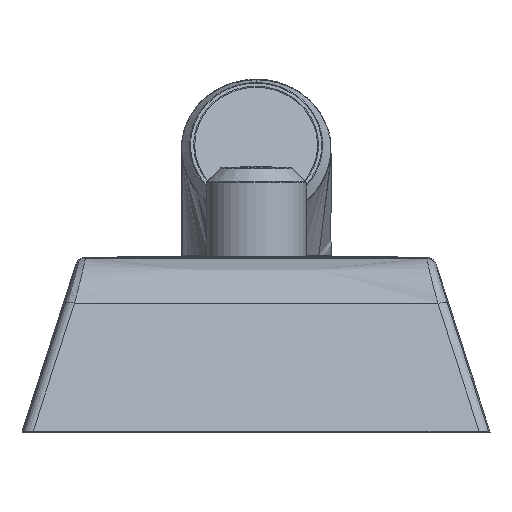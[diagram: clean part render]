
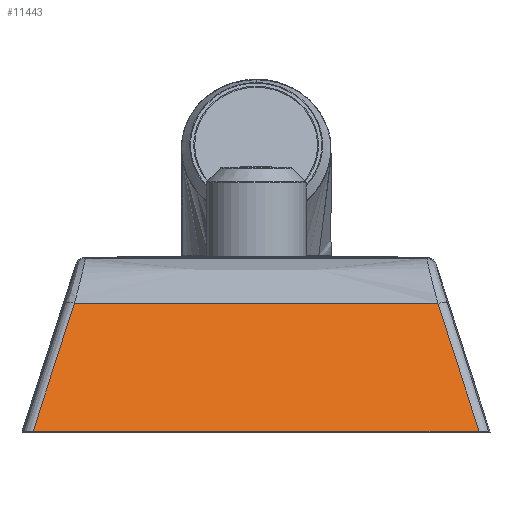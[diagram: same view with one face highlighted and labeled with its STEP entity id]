
A CAD part, front view. The second image highlights one B-rep face of the part: STEP entity #11443.
In plain terms, the highlighted free-form (B-spline) face has degree [3, 3] with [4, 4] control points.
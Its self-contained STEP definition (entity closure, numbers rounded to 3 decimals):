
#8 = CARTESIAN_POINT ( 'NONE',  ( -102.779, -16.141, 21.727 ) ) ;
#154 = CARTESIAN_POINT ( 'NONE',  ( 89.294, -2.098, 63.566 ) ) ;
#661 = CARTESIAN_POINT ( 'NONE',  ( -96.035, -9.11, 42.661 ) ) ;
#828 = VERTEX_POINT ( 'NONE', #3412 ) ;
#861 = CARTESIAN_POINT ( 'NONE',  ( -102.779, -16.141, 21.727 ) ) ;
#1150 = CARTESIAN_POINT ( 'NONE',  ( 89.294, -2.098, 63.566 ) ) ;
#1196 = CARTESIAN_POINT ( 'NONE',  ( 102.782, -16.144, 21.717 ) ) ;
#1326 = CARTESIAN_POINT ( 'NONE',  ( 89.294, -2.098, 63.566 ) ) ;
#1508 = CARTESIAN_POINT ( 'NONE',  ( 54.76, -23.175, 0.793 ) ) ;
#1566 = CARTESIAN_POINT ( 'NONE',  ( -89.284, -2.089, 63.595 ) ) ;
#1830 = CARTESIAN_POINT ( 'NONE',  ( -29.757, -2.004, 64.82 ) ) ;
#2088 = CARTESIAN_POINT ( 'NONE',  ( -29.757, -2.004, 64.82 ) ) ;
#2161 = CARTESIAN_POINT ( 'NONE',  ( 102.782, -16.144, 21.717 ) ) ;
#2169 = CARTESIAN_POINT ( 'NONE',  ( -109.52, -23.175, 0.793 ) ) ;
#2221 = ORIENTED_EDGE ( 'NONE', *, *, #8212, .T. ) ;
#2622 = CARTESIAN_POINT ( 'NONE',  ( 0., -23.175, 0.793 ) ) ;
#2868 = FACE_OUTER_BOUND ( 'NONE', #5846, .T. ) ;
#2935 = VERTEX_POINT ( 'NONE', #1150 ) ;
#3412 = CARTESIAN_POINT ( 'NONE',  ( 109.52, -23.175, 0.793 ) ) ;
#3698 = CARTESIAN_POINT ( 'NONE',  ( -109.52, -23.175, 0.793 ) ) ;
#3966 = CARTESIAN_POINT ( 'NONE',  ( 29.763, -2.008, 64.81 ) ) ;
#4035 = ORIENTED_EDGE ( 'NONE', *, *, #6283, .T. ) ;
#4188 = VERTEX_POINT ( 'NONE', #2169 ) ;
#4354 = CARTESIAN_POINT ( 'NONE',  ( -34.258, -16.112, 22.135 ) ) ;
#4480 = ORIENTED_EDGE ( 'NONE', *, *, #12485, .T. ) ;
#4670 = CARTESIAN_POINT ( 'NONE',  ( -91.266, -23.175, 0.793 ) ) ;
#5377 = B_SPLINE_CURVE_WITH_KNOTS ( 'NONE', 3,
 ( #10290, #661, #861, #3698 ),
 .UNSPECIFIED., .F., .F.,
 ( 4, 4 ),
 ( 0., 1. ),
 .UNSPECIFIED. ) ;
#5713 = CARTESIAN_POINT ( 'NONE',  ( -54.76, -23.175, 0.793 ) ) ;
#5846 = EDGE_LOOP ( 'NONE', ( #4480, #7771, #2221, #4035 ) ) ;
#6048 = B_SPLINE_CURVE_WITH_KNOTS ( 'NONE', 3,
 ( #11050, #13250, #1830, #10011 ),
 .UNSPECIFIED., .F., .F.,
 ( 4, 4 ),
 ( 0., 1. ),
 .UNSPECIFIED. ) ;
#6139 = B_SPLINE_SURFACE_WITH_KNOTS ( 'NONE', 3, 3, ( 
 ( #10216, #8, #11323, #9576 ),
 ( #7529, #4354, #8552, #2088 ),
 ( #9186, #11710, #13397, #3966 ),
 ( #6286, #2161, #11779, #1326 ) ),
 .UNSPECIFIED., .F., .F., .F.,
 ( 4, 4 ),
 ( 4, 4 ),
 ( 0., 1. ),
 ( 0., 1. ),
 .UNSPECIFIED. ) ;
#6283 = EDGE_CURVE ( 'NONE', #13324, #4188, #5377, .T. ) ;
#6286 = CARTESIAN_POINT ( 'NONE',  ( 109.52, -23.175, 0.793 ) ) ;
#6369 = CARTESIAN_POINT ( 'NONE',  ( 109.52, -23.175, 0.793 ) ) ;
#6690 = B_SPLINE_CURVE_WITH_KNOTS ( 'NONE', 3,
 ( #13065, #4670, #5713, #2622, #1508, #10941, #8868 ),
 .UNSPECIFIED., .F., .F.,
 ( 4, 1, 1, 1, 4 ),
 ( 0.093, 0.296, 0.5, 0.704, 0.907 ),
 .UNSPECIFIED. ) ;
#7469 = CARTESIAN_POINT ( 'NONE',  ( 96.041, -9.117, 42.641 ) ) ;
#7529 = CARTESIAN_POINT ( 'NONE',  ( -36.507, -23.175, 0.793 ) ) ;
#7544 = B_SPLINE_CURVE_WITH_KNOTS ( 'NONE', 3,
 ( #6369, #1196, #7469, #154 ),
 .UNSPECIFIED., .F., .F.,
 ( 4, 4 ),
 ( 0., 1. ),
 .UNSPECIFIED. ) ;
#7771 = ORIENTED_EDGE ( 'NONE', *, *, #10166, .T. ) ;
#8212 = EDGE_CURVE ( 'NONE', #2935, #13324, #6048, .T. ) ;
#8552 = CARTESIAN_POINT ( 'NONE',  ( -32.009, -9.054, 43.477 ) ) ;
#8868 = CARTESIAN_POINT ( 'NONE',  ( 109.52, -23.175, 0.793 ) ) ;
#9186 = CARTESIAN_POINT ( 'NONE',  ( 36.507, -23.175, 0.793 ) ) ;
#9576 = CARTESIAN_POINT ( 'NONE',  ( -89.284, -2.089, 63.595 ) ) ;
#10011 = CARTESIAN_POINT ( 'NONE',  ( -89.284, -2.089, 63.595 ) ) ;
#10166 = EDGE_CURVE ( 'NONE', #828, #2935, #7544, .T. ) ;
#10216 = CARTESIAN_POINT ( 'NONE',  ( -109.52, -23.175, 0.793 ) ) ;
#10290 = CARTESIAN_POINT ( 'NONE',  ( -89.284, -2.089, 63.595 ) ) ;
#10941 = CARTESIAN_POINT ( 'NONE',  ( 91.266, -23.175, 0.793 ) ) ;
#11050 = CARTESIAN_POINT ( 'NONE',  ( 89.294, -2.098, 63.566 ) ) ;
#11323 = CARTESIAN_POINT ( 'NONE',  ( -96.035, -9.11, 42.661 ) ) ;
#11443 = ADVANCED_FACE ( 'NONE', ( #2868 ), #6139, .T. ) ;
#11710 = CARTESIAN_POINT ( 'NONE',  ( 34.26, -16.114, 22.132 ) ) ;
#11779 = CARTESIAN_POINT ( 'NONE',  ( 96.041, -9.117, 42.641 ) ) ;
#12485 = EDGE_CURVE ( 'NONE', #4188, #828, #6690, .T. ) ;
#13065 = CARTESIAN_POINT ( 'NONE',  ( -109.52, -23.175, 0.793 ) ) ;
#13250 = CARTESIAN_POINT ( 'NONE',  ( 29.763, -2.008, 64.81 ) ) ;
#13324 = VERTEX_POINT ( 'NONE', #1566 ) ;
#13397 = CARTESIAN_POINT ( 'NONE',  ( 32.013, -9.057, 43.471 ) ) ;
